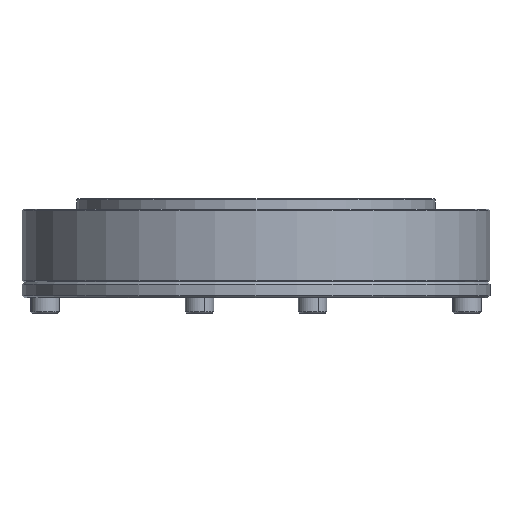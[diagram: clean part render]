
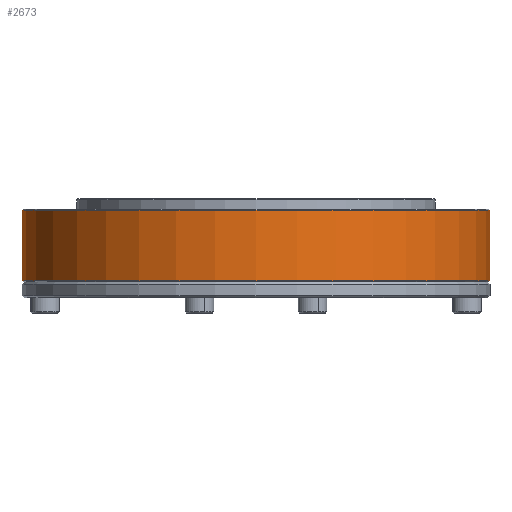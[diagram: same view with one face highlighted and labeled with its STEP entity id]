
A CAD part, front view. The second image highlights one B-rep face of the part: STEP entity #2673.
In plain terms, the highlighted cylindrical face has radius 45 mm (diameter 90 mm), a partial arc.
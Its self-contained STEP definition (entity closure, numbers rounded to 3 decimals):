
#263 = DIRECTION ( 'NONE',  ( 0., 0., -1. ) ) ;
#479 = VECTOR ( 'NONE', #9122, 1000. ) ;
#496 = EDGE_CURVE ( 'NONE', #895, #8653, #4066, .T. ) ;
#684 = VERTEX_POINT ( 'NONE', #713 ) ;
#713 = CARTESIAN_POINT ( 'NONE',  ( 46.935, 4.241, 95.8 ) ) ;
#800 = LINE ( 'NONE', #3672, #479 ) ;
#895 = VERTEX_POINT ( 'NONE', #7861 ) ;
#910 = AXIS2_PLACEMENT_3D ( 'NONE', #3547, #3534, #3519 ) ;
#1154 = CYLINDRICAL_SURFACE ( 'NONE', #2469, 45. ) ;
#1302 = ORIENTED_EDGE ( 'NONE', *, *, #4554, .F. ) ;
#1556 = EDGE_CURVE ( 'NONE', #684, #8269, #2513, .T. ) ;
#1626 = FACE_OUTER_BOUND ( 'NONE', #4853, .T. ) ;
#2264 = CARTESIAN_POINT ( 'NONE',  ( -43.065, 4.241, 95.8 ) ) ;
#2442 = CARTESIAN_POINT ( 'NONE',  ( 46.935, 4.241, 96. ) ) ;
#2469 = AXIS2_PLACEMENT_3D ( 'NONE', #2998, #3059, #3109 ) ;
#2513 = CIRCLE ( 'NONE', #7273, 45. ) ;
#2673 = ADVANCED_FACE ( 'NONE', ( #1626 ), #1154, .T. ) ;
#2998 = CARTESIAN_POINT ( 'NONE',  ( 1.935, 4.241, 96. ) ) ;
#3059 = DIRECTION ( 'NONE',  ( 0., 0., -1. ) ) ;
#3109 = DIRECTION ( 'NONE',  ( -1., 0., 0. ) ) ;
#3519 = DIRECTION ( 'NONE',  ( 1., 0., 0. ) ) ;
#3534 = DIRECTION ( 'NONE',  ( 0., 0., 1. ) ) ;
#3547 = CARTESIAN_POINT ( 'NONE',  ( 1.935, 4.241, 82.2 ) ) ;
#3672 = CARTESIAN_POINT ( 'NONE',  ( -43.065, 4.241, 96. ) ) ;
#3818 = ORIENTED_EDGE ( 'NONE', *, *, #1556, .T. ) ;
#4066 = CIRCLE ( 'NONE', #910, 45. ) ;
#4096 = ORIENTED_EDGE ( 'NONE', *, *, #5075, .T. ) ;
#4554 = EDGE_CURVE ( 'NONE', #684, #8653, #5997, .T. ) ;
#4853 = EDGE_LOOP ( 'NONE', ( #1302, #3818, #4096, #5376 ) ) ;
#5075 = EDGE_CURVE ( 'NONE', #8269, #895, #800, .T. ) ;
#5376 = ORIENTED_EDGE ( 'NONE', *, *, #496, .T. ) ;
#5708 = VECTOR ( 'NONE', #263, 1000. ) ;
#5997 = LINE ( 'NONE', #2442, #5708 ) ;
#7273 = AXIS2_PLACEMENT_3D ( 'NONE', #7357, #7338, #7327 ) ;
#7327 = DIRECTION ( 'NONE',  ( 1., 0., 0. ) ) ;
#7338 = DIRECTION ( 'NONE',  ( 0., 0., -1. ) ) ;
#7357 = CARTESIAN_POINT ( 'NONE',  ( 1.935, 4.241, 95.8 ) ) ;
#7861 = CARTESIAN_POINT ( 'NONE',  ( -43.065, 4.241, 82.2 ) ) ;
#7994 = CARTESIAN_POINT ( 'NONE',  ( 46.935, 4.241, 82.2 ) ) ;
#8269 = VERTEX_POINT ( 'NONE', #2264 ) ;
#8653 = VERTEX_POINT ( 'NONE', #7994 ) ;
#9122 = DIRECTION ( 'NONE',  ( 0., 0., -1. ) ) ;
